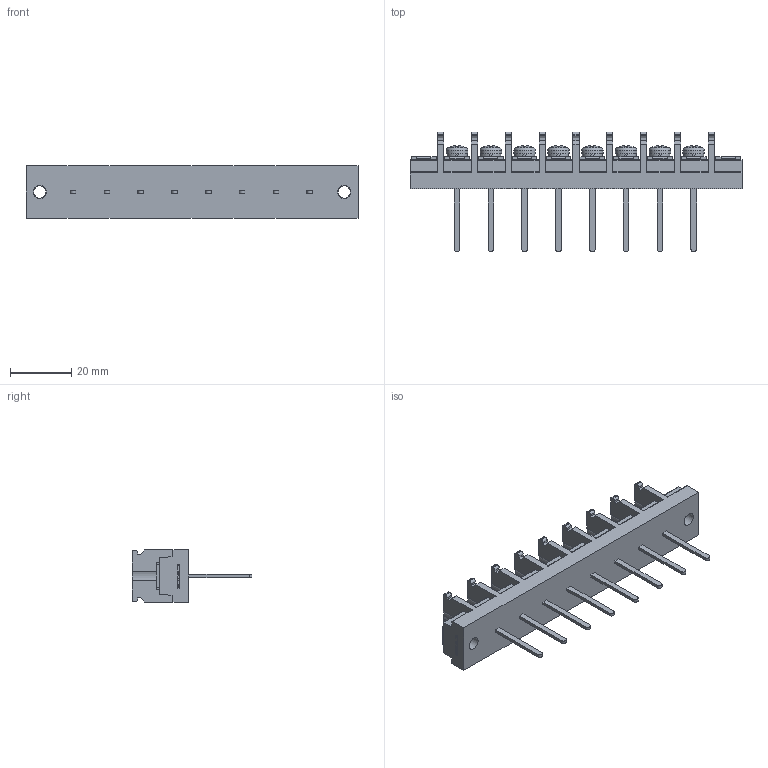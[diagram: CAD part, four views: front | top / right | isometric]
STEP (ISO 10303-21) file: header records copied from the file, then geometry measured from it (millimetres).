
FILE_DESCRIPTION(/* description */ ('Alibre Inc.'),/* implementation_level */ '2;1');
FILE_NAME(/* name */ 'export0',/* time_stamp */ '2015-10-20T07:56:48+09:00',/* author */ (''),/* organization */ (''),/* preprocessor_version */ 'ST-DEVELOPER v14',/* originating_system */ 'Alibre',/* authorisation */ '');
FILE_SCHEMA (('CONFIG_CONTROL_DESIGN'));
Length unit declared in the file: centimetre
Products named in the file (1): ID_1
Bounding box: 108 x 39 x 17 mm (x, y, z)
Volume: 19733.8 mm3; surface area: 11690.8 mm2
Topology: 1 solids, 1 shells, 1044 faces, 2900 edges, 1926 vertices
Faces by surface type: plane 734, cylinder 150, bspline 104, cone 32, torus 16, sphere 8
Full cylindrical faces by diameter (mm): 4 x10, 4.2 x2, 6.5 x8, 7 x8
Entity records: 32350 total; most frequent: CARTESIAN_POINT 6946, ORIENTED_EDGE 5676, DIRECTION 4218, EDGE_CURVE 2838, VECTOR 2014, LINE 2014, VERTEX_POINT 1900, AXIS2_PLACEMENT_3D 1464
